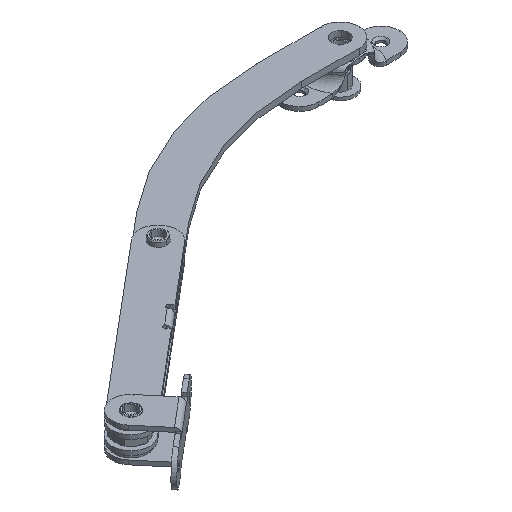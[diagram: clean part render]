
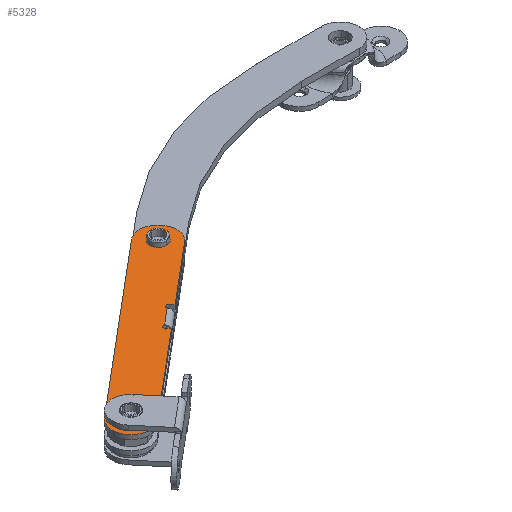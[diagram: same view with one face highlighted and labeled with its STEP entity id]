
A CAD part, isometric view. The second image highlights one B-rep face of the part: STEP entity #5328.
In plain terms, the highlighted planar face has unit normal (0, 0, 1).
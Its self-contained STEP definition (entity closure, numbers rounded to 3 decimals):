
#212 = AXIS2_PLACEMENT_3D ( 'NONE', #11460, #5723, #12431 ) ;
#397 = CIRCLE ( 'NONE', #4211, 1. ) ;
#422 = AXIS2_PLACEMENT_3D ( 'NONE', #813, #2733, #9436 ) ;
#510 = ORIENTED_EDGE ( 'NONE', *, *, #3251, .F. ) ;
#520 = VERTEX_POINT ( 'NONE', #10944 ) ;
#649 = VERTEX_POINT ( 'NONE', #850 ) ;
#718 = ORIENTED_EDGE ( 'NONE', *, *, #6947, .F. ) ;
#747 = AXIS2_PLACEMENT_3D ( 'NONE', #6888, #1154, #7845 ) ;
#813 = CARTESIAN_POINT ( 'NONE',  ( 0., 0., 1. ) ) ;
#850 = CARTESIAN_POINT ( 'NONE',  ( 6.5, 13.634, 1. ) ) ;
#946 = LINE ( 'NONE', #4731, #3211 ) ;
#1039 = LINE ( 'NONE', #11888, #10954 ) ;
#1154 = DIRECTION ( 'NONE',  ( 0., 0., 1. ) ) ;
#1529 = VERTEX_POINT ( 'NONE', #12354 ) ;
#1551 = LINE ( 'NONE', #9244, #3799 ) ;
#1630 = CARTESIAN_POINT ( 'NONE',  ( 0., -52.5, 1. ) ) ;
#1850 = EDGE_CURVE ( 'NONE', #1945, #3068, #397, .T. ) ;
#1945 = VERTEX_POINT ( 'NONE', #9659 ) ;
#1971 = EDGE_CURVE ( 'NONE', #12019, #3481, #4586, .T. ) ;
#2294 = ORIENTED_EDGE ( 'NONE', *, *, #8661, .T. ) ;
#2316 = VECTOR ( 'NONE', #3499, 1000. ) ;
#2531 = CARTESIAN_POINT ( 'NONE',  ( -4.05, -52.5, 1. ) ) ;
#2592 = DIRECTION ( 'NONE',  ( -1., 0., 0. ) ) ;
#2733 = DIRECTION ( 'NONE',  ( 0., 0., 1. ) ) ;
#2784 = CARTESIAN_POINT ( 'NONE',  ( 7., 1.5, 1. ) ) ;
#2795 = CARTESIAN_POINT ( 'NONE',  ( 0., -52.5, 1. ) ) ;
#2826 = FACE_OUTER_BOUND ( 'NONE', #6694, .T. ) ;
#2929 = DIRECTION ( 'NONE',  ( 0., 1., 0. ) ) ;
#3068 = VERTEX_POINT ( 'NONE', #2784 ) ;
#3197 = VERTEX_POINT ( 'NONE', #7651 ) ;
#3211 = VECTOR ( 'NONE', #7613, 1000. ) ;
#3229 = CARTESIAN_POINT ( 'NONE',  ( -9., -52.5, 1. ) ) ;
#3251 = EDGE_CURVE ( 'NONE', #12340, #520, #5326, .T. ) ;
#3256 = ORIENTED_EDGE ( 'NONE', *, *, #11108, .T. ) ;
#3433 = CIRCLE ( 'NONE', #12390, 9. ) ;
#3481 = VERTEX_POINT ( 'NONE', #12015 ) ;
#3499 = DIRECTION ( 'NONE',  ( 0., 1., 0. ) ) ;
#3690 = LINE ( 'NONE', #8577, #11049 ) ;
#3765 = DIRECTION ( 'NONE',  ( 1., 0., 0. ) ) ;
#3799 = VECTOR ( 'NONE', #8321, 1000. ) ;
#3819 = CIRCLE ( 'NONE', #3831, 4.05 ) ;
#3831 = AXIS2_PLACEMENT_3D ( 'NONE', #2795, #9500, #3765 ) ;
#3921 = DIRECTION ( 'NONE',  ( 0., 0., 1. ) ) ;
#3931 = DIRECTION ( 'NONE',  ( 1., 0., 0. ) ) ;
#4019 = DIRECTION ( 'NONE',  ( 0., 0., 1. ) ) ;
#4101 = ORIENTED_EDGE ( 'NONE', *, *, #4891, .T. ) ;
#4195 = ORIENTED_EDGE ( 'NONE', *, *, #1850, .F. ) ;
#4211 = AXIS2_PLACEMENT_3D ( 'NONE', #10257, #9389, #11336 ) ;
#4290 = CIRCLE ( 'NONE', #212, 4.05 ) ;
#4586 = LINE ( 'NONE', #9499, #9371 ) ;
#4731 = CARTESIAN_POINT ( 'NONE',  ( 9., -52.5, 1. ) ) ;
#4846 = EDGE_LOOP ( 'NONE', ( #7210, #7797 ) ) ;
#4860 = LINE ( 'NONE', #6348, #2316 ) ;
#4891 = EDGE_CURVE ( 'NONE', #1529, #3068, #1039, .T. ) ;
#5207 = ORIENTED_EDGE ( 'NONE', *, *, #10082, .F. ) ;
#5235 = CARTESIAN_POINT ( 'NONE',  ( -4.05, 52.5, 1. ) ) ;
#5326 = CIRCLE ( 'NONE', #11479, 4.05 ) ;
#5328 = ADVANCED_FACE ( 'NONE', ( #2826, #7628, #10494 ), #11340, .T. ) ;
#5723 = DIRECTION ( 'NONE',  ( 0., 0., 1. ) ) ;
#6030 = VERTEX_POINT ( 'NONE', #5235 ) ;
#6065 = EDGE_CURVE ( 'NONE', #10324, #8871, #6284, .T. ) ;
#6089 = AXIS2_PLACEMENT_3D ( 'NONE', #9759, #4019, #10741 ) ;
#6142 = EDGE_CURVE ( 'NONE', #3197, #8278, #3433, .T. ) ;
#6154 = DIRECTION ( 'NONE',  ( -1., 0., 0. ) ) ;
#6284 = CIRCLE ( 'NONE', #9162, 9. ) ;
#6348 = CARTESIAN_POINT ( 'NONE',  ( 9., 15.5, 1. ) ) ;
#6355 = EDGE_LOOP ( 'NONE', ( #510, #5207 ) ) ;
#6694 = EDGE_LOOP ( 'NONE', ( #718, #7765, #3256, #11113, #7813, #7904, #9157, #4101, #4195, #2294 ) ) ;
#6888 = CARTESIAN_POINT ( 'NONE',  ( 7., 14.5, 1. ) ) ;
#6947 = EDGE_CURVE ( 'NONE', #3481, #649, #11068, .T. ) ;
#6995 = CARTESIAN_POINT ( 'NONE',  ( 9., -52.5, 1. ) ) ;
#7210 = ORIENTED_EDGE ( 'NONE', *, *, #9481, .F. ) ;
#7613 = DIRECTION ( 'NONE',  ( 0., 1., 0. ) ) ;
#7628 = FACE_BOUND ( 'NONE', #4846, .T. ) ;
#7651 = CARTESIAN_POINT ( 'NONE',  ( 9., 52.5, 1. ) ) ;
#7765 = ORIENTED_EDGE ( 'NONE', *, *, #1971, .F. ) ;
#7797 = ORIENTED_EDGE ( 'NONE', *, *, #8264, .F. ) ;
#7813 = ORIENTED_EDGE ( 'NONE', *, *, #11672, .T. ) ;
#7845 = DIRECTION ( 'NONE',  ( 0., 1., 0. ) ) ;
#7904 = ORIENTED_EDGE ( 'NONE', *, *, #6065, .T. ) ;
#8264 = EDGE_CURVE ( 'NONE', #9949, #6030, #11198, .T. ) ;
#8278 = VERTEX_POINT ( 'NONE', #8611 ) ;
#8313 = DIRECTION ( 'NONE',  ( 0., 0., 1. ) ) ;
#8321 = DIRECTION ( 'NONE',  ( 0., -1., 0. ) ) ;
#8577 = CARTESIAN_POINT ( 'NONE',  ( 6.5, 3.366, 1. ) ) ;
#8611 = CARTESIAN_POINT ( 'NONE',  ( -9., 52.5, 1. ) ) ;
#8661 = EDGE_CURVE ( 'NONE', #1945, #649, #3690, .T. ) ;
#8871 = VERTEX_POINT ( 'NONE', #6995 ) ;
#9157 = ORIENTED_EDGE ( 'NONE', *, *, #11793, .T. ) ;
#9162 = AXIS2_PLACEMENT_3D ( 'NONE', #1630, #8313, #2592 ) ;
#9172 = CARTESIAN_POINT ( 'NONE',  ( 4.05, 52.5, 1. ) ) ;
#9193 = CARTESIAN_POINT ( 'NONE',  ( 0., 52.5, 1. ) ) ;
#9244 = CARTESIAN_POINT ( 'NONE',  ( -9., 52.5, 1. ) ) ;
#9368 = DIRECTION ( 'NONE',  ( -1., 0., 0. ) ) ;
#9371 = VECTOR ( 'NONE', #9368, 1000. ) ;
#9389 = DIRECTION ( 'NONE',  ( 0., 0., 1. ) ) ;
#9436 = DIRECTION ( 'NONE',  ( 1., 0., 0. ) ) ;
#9481 = EDGE_CURVE ( 'NONE', #6030, #9949, #4290, .T. ) ;
#9499 = CARTESIAN_POINT ( 'NONE',  ( 9., 15.5, 1. ) ) ;
#9500 = DIRECTION ( 'NONE',  ( 0., 0., 1. ) ) ;
#9652 = CARTESIAN_POINT ( 'NONE',  ( 0., -52.5, 1. ) ) ;
#9659 = CARTESIAN_POINT ( 'NONE',  ( 6.5, 3.366, 1. ) ) ;
#9664 = DIRECTION ( 'NONE',  ( 0., 0., 1. ) ) ;
#9759 = CARTESIAN_POINT ( 'NONE',  ( 0., 52.5, 1. ) ) ;
#9949 = VERTEX_POINT ( 'NONE', #9172 ) ;
#10082 = EDGE_CURVE ( 'NONE', #520, #12340, #3819, .T. ) ;
#10257 = CARTESIAN_POINT ( 'NONE',  ( 7., 2.5, 1. ) ) ;
#10324 = VERTEX_POINT ( 'NONE', #3229 ) ;
#10494 = FACE_BOUND ( 'NONE', #6355, .T. ) ;
#10520 = CARTESIAN_POINT ( 'NONE',  ( 9., 15.5, 1. ) ) ;
#10644 = DIRECTION ( 'NONE',  ( -1., 0., 0. ) ) ;
#10741 = DIRECTION ( 'NONE',  ( 1., 0., 0. ) ) ;
#10944 = CARTESIAN_POINT ( 'NONE',  ( 4.05, -52.5, 1. ) ) ;
#10954 = VECTOR ( 'NONE', #6154, 1000. ) ;
#11049 = VECTOR ( 'NONE', #2929, 1000. ) ;
#11068 = CIRCLE ( 'NONE', #747, 1. ) ;
#11108 = EDGE_CURVE ( 'NONE', #12019, #3197, #4860, .T. ) ;
#11113 = ORIENTED_EDGE ( 'NONE', *, *, #6142, .T. ) ;
#11198 = CIRCLE ( 'NONE', #6089, 4.05 ) ;
#11336 = DIRECTION ( 'NONE',  ( -0.5, 0.866, 0. ) ) ;
#11340 = PLANE ( 'NONE',  #422 ) ;
#11460 = CARTESIAN_POINT ( 'NONE',  ( 0., 52.5, 1. ) ) ;
#11479 = AXIS2_PLACEMENT_3D ( 'NONE', #9652, #3921, #10644 ) ;
#11672 = EDGE_CURVE ( 'NONE', #8278, #10324, #1551, .T. ) ;
#11793 = EDGE_CURVE ( 'NONE', #8871, #1529, #946, .T. ) ;
#11888 = CARTESIAN_POINT ( 'NONE',  ( 9., 1.5, 1. ) ) ;
#12015 = CARTESIAN_POINT ( 'NONE',  ( 7., 15.5, 1. ) ) ;
#12019 = VERTEX_POINT ( 'NONE', #10520 ) ;
#12340 = VERTEX_POINT ( 'NONE', #2531 ) ;
#12354 = CARTESIAN_POINT ( 'NONE',  ( 9., 1.5, 1. ) ) ;
#12390 = AXIS2_PLACEMENT_3D ( 'NONE', #9193, #9664, #3931 ) ;
#12431 = DIRECTION ( 'NONE',  ( -1., 0., 0. ) ) ;
